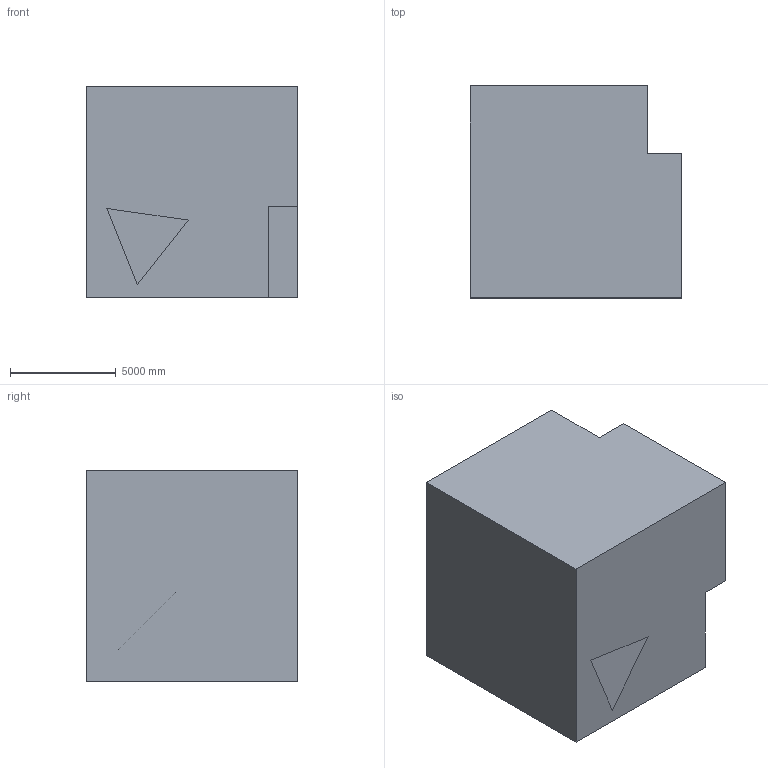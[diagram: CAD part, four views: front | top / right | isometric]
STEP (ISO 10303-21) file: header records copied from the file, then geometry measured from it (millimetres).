
FILE_DESCRIPTION (( 'STEP AP203' ), '1' );
FILE_NAME ('274.STEP', '2022-07-28T14:10:35', ( 'user' ), ( '' ), 'SwSTEP 2.0', 'SolidWorks 2021', '' );
FILE_SCHEMA (( 'CONFIG_CONTROL_DESIGN' ));
Length unit declared in the file: centimetre
Products named in the file (1): 274
Bounding box: 10000 x 10000 x 10000 mm (x, y, z)
Volume: 868676798604.7 mm3; surface area: 688114051.5 mm2
Topology: 1 solids, 1 shells, 15 faces, 36 edges, 24 vertices
Faces by surface type: plane 15
Entity records: 507 total; most frequent: CARTESIAN_POINT 76, ORIENTED_EDGE 72, DIRECTION 68, VECTOR 36, EDGE_CURVE 36, LINE 36, VERTEX_POINT 24, AXIS2_PLACEMENT_3D 16
